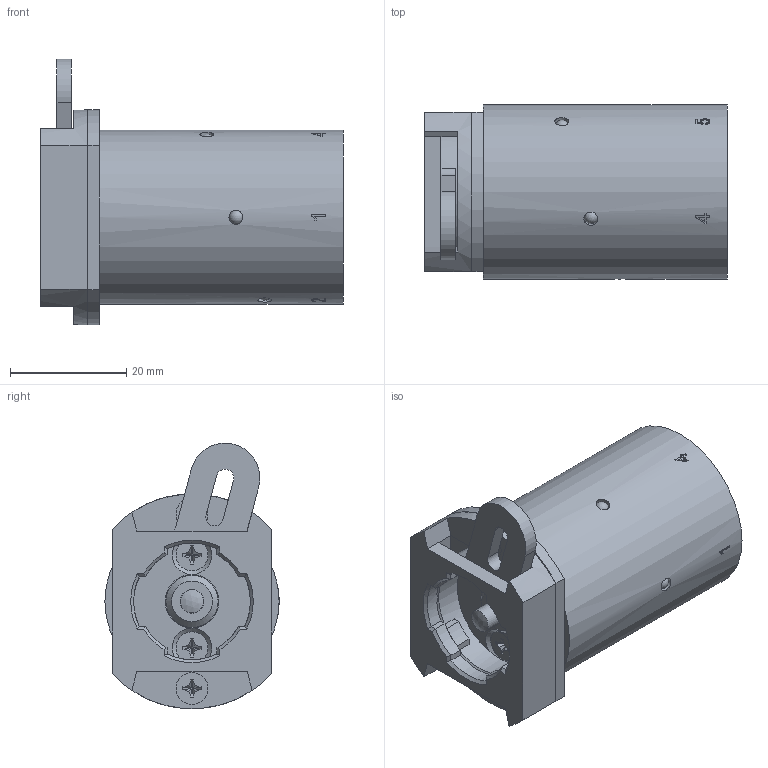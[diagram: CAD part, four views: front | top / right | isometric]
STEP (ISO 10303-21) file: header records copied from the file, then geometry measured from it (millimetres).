
FILE_DESCRIPTION(/* description */ ('Unknown','CAx-IF Rec.Pracs.---Representation and Presentation of Product Manufacturing Information (PMI)---4.0---2014-10-13','CAx-IF Rec.Pracs.---3D Tessellated Geometry---0.4---2014-09-14','2;1'),/* implementation_level */ '2;1');
FILE_NAME(/* name */ 'BA 511 202',/* time_stamp */ '2020-07-06T09:08:18+02:00',/* author */ ('Unknown'),/* organization */ ('Unknown'),/* preprocessor_version */ 'ST-DEVELOPER v16.7',/* originating_system */ 'DEX',/* authorisation */ $);
FILE_SCHEMA (('AP242_MANAGED_MODEL_BASED_3D_ENGINEERING_MIM_LF { 1 0 10303 442 20130219 1 4 }'));
Length unit declared in the file: millimetre
Products named in the file (2): BA 511 202
Assembly tree (1 placements, depth 2):
  BA 511 202
    BA 511 202
Bounding box: 52.1 x 30 x 45.73 mm (x, y, z)
Volume: 32236.8 mm3; surface area: 15343 mm2
Topology: 15 solids, 15 shells, 361 faces, 885 edges, 549 vertices
Faces by surface type: plane 197, cylinder 91, cone 54, bspline 10, sphere 5, torus 4
Full cylindrical faces by diameter (mm): 1 x1, 2.375 x10, 2.459 x6, 2.8 x2, 3 x4, 3.1 x2, 3.2 x2, 4 x3, 4.05 x1, 4.134 x10, 5 x1, 5.5 x6, 5.6 x2, 6 x1, 7 x1, 8 x1, 8.06 x1, 8.08 x1, 9 x1, 9.2 x1, 20.1 x1, 24 x1, 30 x1
Entity records: 11683 total; most frequent: CARTESIAN_POINT 2228, DIRECTION 1626, ORIENTED_EDGE 1432, EDGE_CURVE 716, AXIS2_PLACEMENT_3D 610, FACE_BOUND 527, EDGE_LOOP 520, VERTEX_POINT 501
